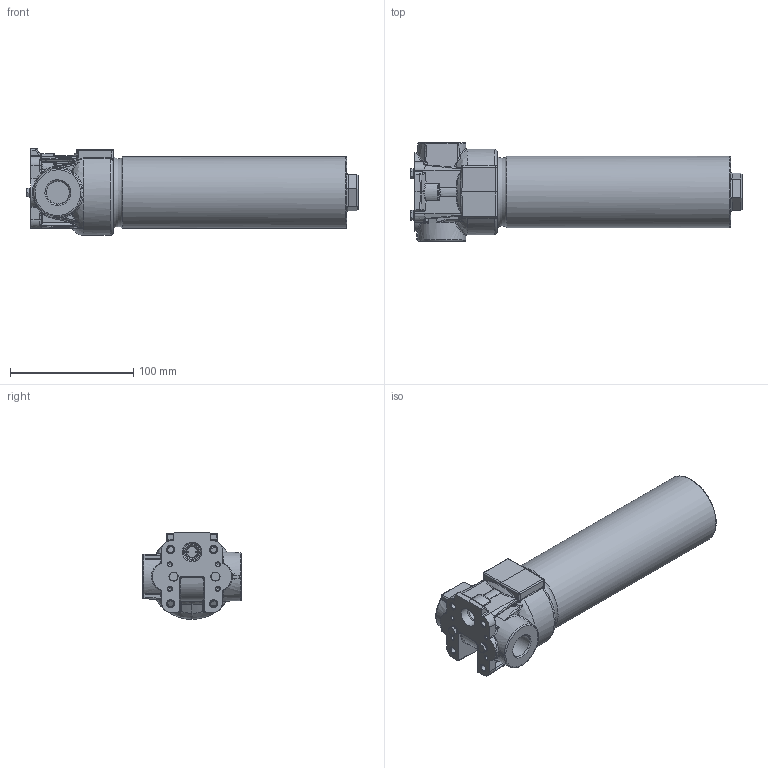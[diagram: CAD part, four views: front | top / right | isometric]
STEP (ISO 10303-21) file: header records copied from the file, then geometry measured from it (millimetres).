
FILE_DESCRIPTION((''),'2;1');
FILE_NAME('U:\Users\t.schleuter\D_062-162.stp','2013-05-06T10:05:57', ('User'),('SDRC'),'I-DEAS Master Series 9','UNIX','Yes');
FILE_SCHEMA(('AUTOMOTIVE_DESIGN { 1 0 10303 214 1 1 1 1 }'));
Length unit declared in the file: millimetre
Products named in the file (1): 12007000(264398)
Bounding box: 269.85 x 80 x 70.52 mm (x, y, z)
Volume: 738716.9 mm3; surface area: 67472.3 mm2
Topology: 1 solids, 6 shells, 549 faces, 1309 edges, 718 vertices
Faces by surface type: bspline 549
Entity records: 21996 total; most frequent: CARTESIAN_POINT 14890, ORIENTED_EDGE 2470, EDGE_CURVE 1235, B_SPLINE_CURVE_WITH_KNOTS 724, VERTEX_POINT 711, EDGE_LOOP 574, FACE_OUTER_BOUND 549, ADVANCED_FACE 549
